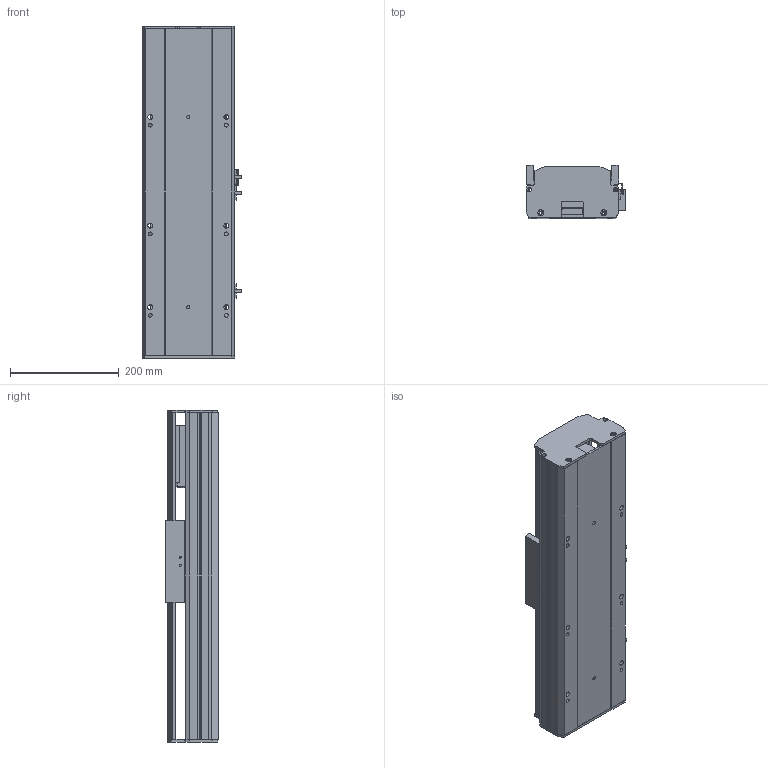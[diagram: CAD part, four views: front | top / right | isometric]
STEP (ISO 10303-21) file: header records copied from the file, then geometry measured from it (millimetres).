
FILE_DESCRIPTION (( 'STEP AP203' ), '1' );
FILE_NAME ('Y170-D10-S200-M-P400W.STEP', '2020-01-22T12:30:42', ( '微软用户' ), ( '微软中国' ), 'SwSTEP 2.0', 'SolidWorks 2017', '' );
FILE_SCHEMA (( 'CONFIG_CONTROL_DESIGN' ));
Length unit declared in the file: millimetre
Products named in the file (10): Y170耜裔--準---M; san松下电机400不带刹车----; Y170-陔遴奻裔-M; YD-Y100-135-新外置传感挡片(通用）; Y170-D10-S200-M-P400W; Y100-135俋离換覜ん; 135-盓傅釱-FK15; Y170耜裔--準---; Y170--雄赽釱-梓--; 170--掛极-M
Assembly tree (11 placements, depth 2):
  Y170-D10-S200-M-P400W
    YD-Y100-135-新外置传感挡片(通用）
    Y100-135俋离換覜ん  x3
    135-盓傅釱-FK15
    Y170耜裔--準---
    Y170--雄赽釱-梓--
    170--掛极-M
    Y170耜裔--準---M
    san松下电机400不带刹车----
    Y170-陔遴奻裔-M
Bounding box: 183.5 x 97 x 611 mm (x, y, z)
Volume: 3065940.4 mm3; surface area: 1027926.8 mm2
Topology: 11 solids, 11 shells, 749 faces, 2084 edges, 1380 vertices
Faces by surface type: plane 384, cylinder 363, torus 2
Entity records: 23740 total; most frequent: CARTESIAN_POINT 4073, DIRECTION 3982, ORIENTED_EDGE 3832, EDGE_CURVE 1916, AXIS2_PLACEMENT_3D 1401, VERTEX_POINT 1268, LINE 1180, VECTOR 1180
